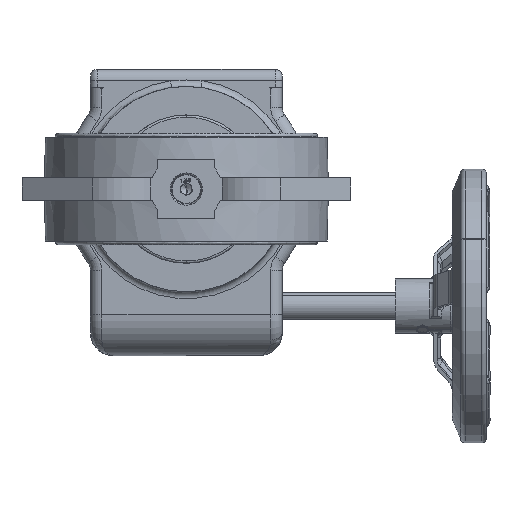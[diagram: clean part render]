
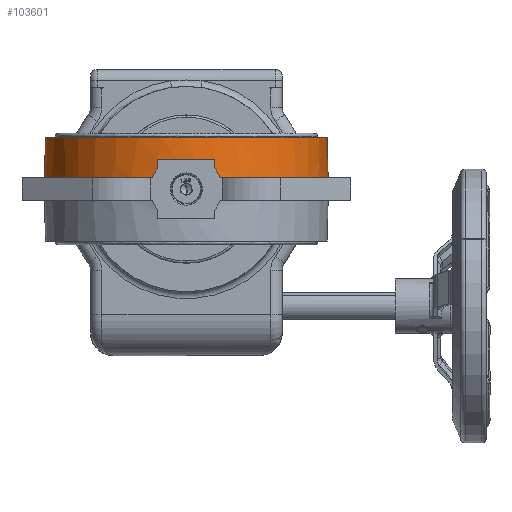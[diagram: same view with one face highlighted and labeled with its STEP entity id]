
A CAD part, front view. The second image highlights one B-rep face of the part: STEP entity #103601.
In plain terms, the highlighted conical face has half-angle 1.259 degrees and reference radius 61.75 mm.
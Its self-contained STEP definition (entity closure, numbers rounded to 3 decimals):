
#195 = FACE_OUTER_BOUND ( 'NONE', #89345, .T. ) ;
#1051 = AXIS2_PLACEMENT_3D ( 'NONE', #50538, #106412, #50142 ) ;
#2390 = LINE ( 'NONE', #72706, #109680 ) ;
#2453 = CARTESIAN_POINT ( 'NONE',  ( -57.448, -23.976, 0. ) ) ;
#3337 = EDGE_CURVE ( 'NONE', #110799, #99748, #100932, .T. ) ;
#3754 = EDGE_CURVE ( 'NONE', #110799, #88733, #98173, .T. ) ;
#4794 = EDGE_CURVE ( 'NONE', #43478, #118287, #25211, .T. ) ;
#7477 = DIRECTION ( 'NONE',  ( 0.022, 0., -1. ) ) ;
#8881 = CARTESIAN_POINT ( 'NONE',  ( 57.497, -23.569, 5. ) ) ;
#10393 = ORIENTED_EDGE ( 'NONE', *, *, #17464, .F. ) ;
#14066 = CARTESIAN_POINT ( 'NONE',  ( 12.5, -60.773, 9.33 ) ) ;
#15392 = EDGE_CURVE ( 'NONE', #102190, #22627, #59120, .T. ) ;
#16073 = DIRECTION ( 'NONE',  ( 0., 0.022, 1. ) ) ;
#16527 = CIRCLE ( 'NONE', #80529, 62.25 ) ;
#17406 = CARTESIAN_POINT ( 'NONE',  ( 57.462, -23.84, 1.768 ) ) ;
#17464 = EDGE_CURVE ( 'NONE', #93238, #119091, #2390, .T. ) ;
#17682 = CONICAL_SURFACE ( 'NONE', #33825, 61.75, 0.022 ) ;
#18596 = CARTESIAN_POINT ( 'NONE',  ( 57.479, -23.704, 3.434 ) ) ;
#21183 = EDGE_CURVE ( 'NONE', #118287, #99748, #16527, .T. ) ;
#21280 = CARTESIAN_POINT ( 'NONE',  ( 12.5, -60.773, 9.33 ) ) ;
#22098 = VERTEX_POINT ( 'NONE', #54994 ) ;
#22627 = VERTEX_POINT ( 'NONE', #40529 ) ;
#22954 = CIRCLE ( 'NONE', #26241, 61.964 ) ;
#25211 = B_SPLINE_CURVE_WITH_KNOTS ( 'NONE', 3,
 ( #33247, #117527, #107757, #99231 ),
 .UNSPECIFIED., .F., .F.,
 ( 4, 4 ),
 ( 0., 1. ),
 .UNSPECIFIED. ) ;
#25659 = DIRECTION ( 'NONE',  ( 0., 0., -1. ) ) ;
#25839 = VECTOR ( 'NONE', #16073, 1000. ) ;
#26241 = AXIS2_PLACEMENT_3D ( 'NONE', #115565, #88799, #42633 ) ;
#26279 = CARTESIAN_POINT ( 'NONE',  ( 14.17, -60.476, 6.438 ) ) ;
#26908 = ORIENTED_EDGE ( 'NONE', *, *, #15392, .F. ) ;
#27131 = DIRECTION ( 'NONE',  ( -1., 0., 0. ) ) ;
#27475 = AXIS2_PLACEMENT_3D ( 'NONE', #73671, #118330, #27131 ) ;
#28952 = LINE ( 'NONE', #34932, #91275 ) ;
#31329 = CARTESIAN_POINT ( 'NONE',  ( -12.5, -60.69, 13. ) ) ;
#32699 = DIRECTION ( 'NONE',  ( 0., 0., -1. ) ) ;
#33247 = CARTESIAN_POINT ( 'NONE',  ( -57.497, -23.569, 5. ) ) ;
#33825 = AXIS2_PLACEMENT_3D ( 'NONE', #81502, #62047, #110674 ) ;
#34018 = ORIENTED_EDGE ( 'NONE', *, *, #109277, .F. ) ;
#34932 = CARTESIAN_POINT ( 'NONE',  ( 61.75, 0., 22.75 ) ) ;
#36585 = CIRCLE ( 'NONE', #111388, 62.14 ) ;
#37275 = ORIENTED_EDGE ( 'NONE', *, *, #104417, .F. ) ;
#40181 = CARTESIAN_POINT ( 'NONE',  ( -62.25, 0., 0. ) ) ;
#40529 = CARTESIAN_POINT ( 'NONE',  ( 12.5, -60.69, 13. ) ) ;
#42633 = DIRECTION ( 'NONE',  ( -1., 0., 0. ) ) ;
#43478 = VERTEX_POINT ( 'NONE', #100799 ) ;
#43634 = CARTESIAN_POINT ( 'NONE',  ( 62.25, 0., 0. ) ) ;
#44103 = CARTESIAN_POINT ( 'NONE',  ( -12.5, -60.773, 9.33 ) ) ;
#44702 = CARTESIAN_POINT ( 'NONE',  ( -14.17, -60.476, 6.438 ) ) ;
#45059 = DIRECTION ( 'NONE',  ( -1., 0., 0. ) ) ;
#46173 = CARTESIAN_POINT ( 'NONE',  ( -15., -60.303, 5. ) ) ;
#46242 =( BOUNDED_CURVE ( )  B_SPLINE_CURVE ( 3, ( #81938, #91255, #44702, #81129 ),
 .UNSPECIFIED., .F., .T. ) 
 B_SPLINE_CURVE_WITH_KNOTS ( ( 4, 4 ),
 ( 4.878, 4.919 ),
 .UNSPECIFIED. ) 
 CURVE ( )  GEOMETRIC_REPRESENTATION_ITEM ( )  RATIONAL_B_SPLINE_CURVE ( ( 1., 1., 1., 1. ) ) 
 REPRESENTATION_ITEM ( '' )  );
#47373 = ORIENTED_EDGE ( 'NONE', *, *, #61367, .F. ) ;
#50142 = DIRECTION ( 'NONE',  ( -1., 0., 0. ) ) ;
#50538 = CARTESIAN_POINT ( 'NONE',  ( 0., 0., 5. ) ) ;
#53582 = DIRECTION ( 'NONE',  ( -0.022, 0., -1. ) ) ;
#53936 = VERTEX_POINT ( 'NONE', #46173 ) ;
#54535 = CARTESIAN_POINT ( 'NONE',  ( 57.448, -23.976, 0. ) ) ;
#54561 = CARTESIAN_POINT ( 'NONE',  ( 13.337, -60.633, 7.881 ) ) ;
#54994 = CARTESIAN_POINT ( 'NONE',  ( 15., -60.303, 5. ) ) ;
#55494 = ORIENTED_EDGE ( 'NONE', *, *, #98748, .F. ) ;
#56122 = CARTESIAN_POINT ( 'NONE',  ( 61.75, 0., 22.75 ) ) ;
#57903 = AXIS2_PLACEMENT_3D ( 'NONE', #95860, #32699, #97450 ) ;
#59120 = LINE ( 'NONE', #14066, #25839 ) ;
#60690 = ORIENTED_EDGE ( 'NONE', *, *, #66630, .F. ) ;
#61367 = EDGE_CURVE ( 'NONE', #22627, #93238, #22954, .T. ) ;
#61968 = VERTEX_POINT ( 'NONE', #112478 ) ;
#62047 = DIRECTION ( 'NONE',  ( 0., 0., -1. ) ) ;
#62288 = ORIENTED_EDGE ( 'NONE', *, *, #102304, .F. ) ;
#64022 = CIRCLE ( 'NONE', #1051, 62.14 ) ;
#66191 = VECTOR ( 'NONE', #53582, 1000. ) ;
#66630 = EDGE_CURVE ( 'NONE', #61968, #22098, #64022, .T. ) ;
#68715 = VERTEX_POINT ( 'NONE', #89771 ) ;
#69812 = CARTESIAN_POINT ( 'NONE',  ( -61.75, 0., 22.75 ) ) ;
#72706 = CARTESIAN_POINT ( 'NONE',  ( -12.5, -60.69, 13. ) ) ;
#73671 = CARTESIAN_POINT ( 'NONE',  ( 0., 0., 22.75 ) ) ;
#74656 = EDGE_CURVE ( 'NONE', #88733, #100445, #28952, .T. ) ;
#75054 = DIRECTION ( 'NONE',  ( -1., 0., 0. ) ) ;
#76916 = EDGE_CURVE ( 'NONE', #22098, #102190, #96177, .T. ) ;
#80529 = AXIS2_PLACEMENT_3D ( 'NONE', #92911, #110811, #75054 ) ;
#80606 = ORIENTED_EDGE ( 'NONE', *, *, #4794, .F. ) ;
#81129 = CARTESIAN_POINT ( 'NONE',  ( -15., -60.303, 5. ) ) ;
#81502 = CARTESIAN_POINT ( 'NONE',  ( 0., 0., 22.75 ) ) ;
#81938 = CARTESIAN_POINT ( 'NONE',  ( -12.5, -60.773, 9.33 ) ) ;
#82055 = DIRECTION ( 'NONE',  ( 0., -0.022, -1. ) ) ;
#88505 = CIRCLE ( 'NONE', #57903, 62.25 ) ;
#88733 = VERTEX_POINT ( 'NONE', #56122 ) ;
#88799 = DIRECTION ( 'NONE',  ( 0., 0., -1. ) ) ;
#89157 = CARTESIAN_POINT ( 'NONE',  ( -61.75, 0., 22.75 ) ) ;
#89345 = EDGE_LOOP ( 'NONE', ( #91046, #113541, #112003, #119170, #80606, #62288, #55494, #10393, #47373, #26908, #109786, #60690, #34018, #37275 ) ) ;
#89771 = CARTESIAN_POINT ( 'NONE',  ( 57.448, -23.976, 0. ) ) ;
#90332 = B_SPLINE_CURVE_WITH_KNOTS ( 'NONE', 3,
 ( #54535, #17406, #18596, #8881 ),
 .UNSPECIFIED., .F., .F.,
 ( 4, 4 ),
 ( 0., 1. ),
 .UNSPECIFIED. ) ;
#90697 = CARTESIAN_POINT ( 'NONE',  ( 15., -60.303, 5. ) ) ;
#91046 = ORIENTED_EDGE ( 'NONE', *, *, #74656, .F. ) ;
#91255 = CARTESIAN_POINT ( 'NONE',  ( -13.337, -60.633, 7.881 ) ) ;
#91275 = VECTOR ( 'NONE', #7477, 1000. ) ;
#92911 = CARTESIAN_POINT ( 'NONE',  ( 0., 0., 0. ) ) ;
#93238 = VERTEX_POINT ( 'NONE', #31329 ) ;
#95860 = CARTESIAN_POINT ( 'NONE',  ( 0., 0., 0. ) ) ;
#96177 =( BOUNDED_CURVE ( )  B_SPLINE_CURVE ( 3, ( #90697, #26279, #54561, #100356 ),
 .UNSPECIFIED., .F., .T. ) 
 B_SPLINE_CURVE_WITH_KNOTS ( ( 4, 4 ),
 ( 1.364, 1.405 ),
 .UNSPECIFIED. ) 
 CURVE ( )  GEOMETRIC_REPRESENTATION_ITEM ( )  RATIONAL_B_SPLINE_CURVE ( ( 1., 1., 1., 1. ) ) 
 REPRESENTATION_ITEM ( '' )  );
#97450 = DIRECTION ( 'NONE',  ( -1., 0., 0. ) ) ;
#98173 = CIRCLE ( 'NONE', #27475, 61.75 ) ;
#98748 = EDGE_CURVE ( 'NONE', #119091, #53936, #46242, .T. ) ;
#99231 = CARTESIAN_POINT ( 'NONE',  ( -57.448, -23.976, 0. ) ) ;
#99748 = VERTEX_POINT ( 'NONE', #40181 ) ;
#100356 = CARTESIAN_POINT ( 'NONE',  ( 12.5, -60.773, 9.33 ) ) ;
#100445 = VERTEX_POINT ( 'NONE', #43634 ) ;
#100799 = CARTESIAN_POINT ( 'NONE',  ( -57.497, -23.569, 5. ) ) ;
#100932 = LINE ( 'NONE', #69812, #66191 ) ;
#102190 = VERTEX_POINT ( 'NONE', #21280 ) ;
#102304 = EDGE_CURVE ( 'NONE', #53936, #43478, #36585, .T. ) ;
#103601 = ADVANCED_FACE ( 'NONE', ( #195 ), #17682, .T. ) ;
#104417 = EDGE_CURVE ( 'NONE', #100445, #68715, #88505, .T. ) ;
#106412 = DIRECTION ( 'NONE',  ( 0., 0., -1. ) ) ;
#107757 = CARTESIAN_POINT ( 'NONE',  ( -57.462, -23.84, 1.768 ) ) ;
#109277 = EDGE_CURVE ( 'NONE', #68715, #61968, #90332, .T. ) ;
#109680 = VECTOR ( 'NONE', #82055, 1000. ) ;
#109786 = ORIENTED_EDGE ( 'NONE', *, *, #76916, .F. ) ;
#110674 = DIRECTION ( 'NONE',  ( -1., 0., 0. ) ) ;
#110799 = VERTEX_POINT ( 'NONE', #89157 ) ;
#110811 = DIRECTION ( 'NONE',  ( 0., 0., -1. ) ) ;
#111388 = AXIS2_PLACEMENT_3D ( 'NONE', #118028, #25659, #45059 ) ;
#112003 = ORIENTED_EDGE ( 'NONE', *, *, #3337, .T. ) ;
#112478 = CARTESIAN_POINT ( 'NONE',  ( 57.497, -23.569, 5. ) ) ;
#113541 = ORIENTED_EDGE ( 'NONE', *, *, #3754, .F. ) ;
#115565 = CARTESIAN_POINT ( 'NONE',  ( 0., 0., 13. ) ) ;
#117527 = CARTESIAN_POINT ( 'NONE',  ( -57.479, -23.704, 3.434 ) ) ;
#118028 = CARTESIAN_POINT ( 'NONE',  ( 0., 0., 5. ) ) ;
#118287 = VERTEX_POINT ( 'NONE', #2453 ) ;
#118330 = DIRECTION ( 'NONE',  ( 0., 0., 1. ) ) ;
#119091 = VERTEX_POINT ( 'NONE', #44103 ) ;
#119170 = ORIENTED_EDGE ( 'NONE', *, *, #21183, .F. ) ;
